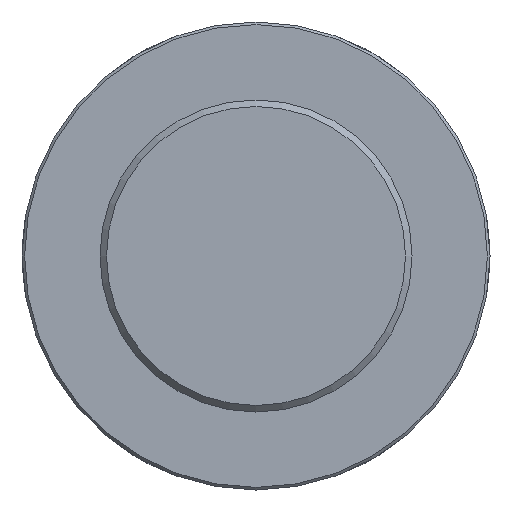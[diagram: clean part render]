
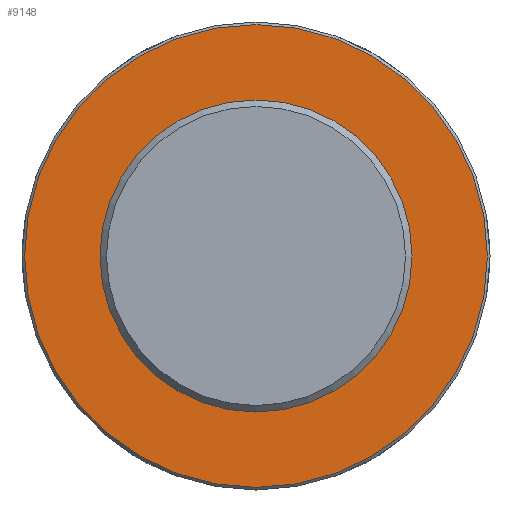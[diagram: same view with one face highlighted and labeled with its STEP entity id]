
A CAD part, front view. The second image highlights one B-rep face of the part: STEP entity #9148.
In plain terms, the highlighted planar face has unit normal (0, -1, 0) as drawn and (0, 1, 0) by its records, which use the part's own axes.
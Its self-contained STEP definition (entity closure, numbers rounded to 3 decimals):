
#73=CIRCLE('',#9487,178.);
#1386=FACE_OUTER_BOUND('',#1946,.T.);
#1946=EDGE_LOOP('',(#8399));
#4434=VERTEX_POINT('',#16784);
#5759=EDGE_CURVE('',#4434,#4434,#73,.T.);
#8399=ORIENTED_EDGE('',*,*,#5759,.F.);
#8659=PLANE('',#9490);
#9148=ADVANCED_FACE('',(#1386),#8659,.T.);
#9487=AXIS2_PLACEMENT_3D('',#16785,#10822,#10823);
#9490=AXIS2_PLACEMENT_3D('',#17023,#10828,#10829);
#10822=DIRECTION('center_axis',(0.,-1.,0.));
#10823=DIRECTION('ref_axis',(1.,0.,0.));
#10828=DIRECTION('center_axis',(0.,1.,0.));
#10829=DIRECTION('ref_axis',(0.,0.,1.));
#16784=CARTESIAN_POINT('',(-178.,165.,0.));
#16785=CARTESIAN_POINT('Origin',(0.,165.,0.));
#17023=CARTESIAN_POINT('Origin',(0.,165.,0.));
